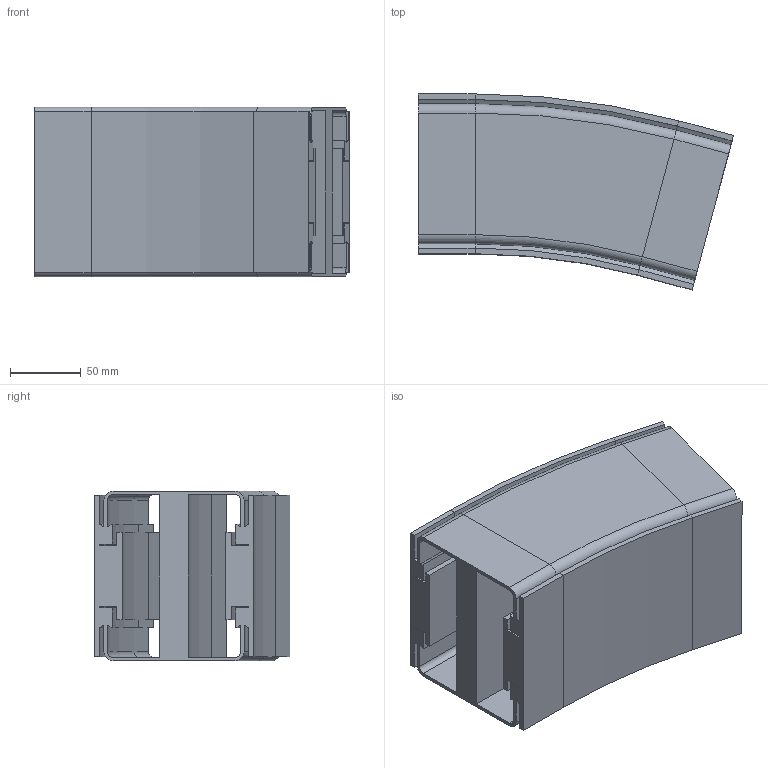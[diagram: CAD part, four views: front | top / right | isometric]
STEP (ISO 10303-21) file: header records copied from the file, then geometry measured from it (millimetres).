
FILE_DESCRIPTION (( 'STEP AP214' ), '1' );
FILE_NAME ('VC.120 Verticale bochtsectie.R500 15.STEP', '2017-02-08T08:10:09', ( '' ), ( '' ), 'SwSTEP 2.0', 'SolidWorks 2016', '' );
FILE_SCHEMA (( 'AUTOMOTIVE_DESIGN' ));
Length unit declared in the file: millimetre
Products named in the file (1): VC.120 Verticale bochtsectie.R500 15
Bounding box: 222.67 x 138.46 x 120 mm (x, y, z)
Volume: 1243492 mm3; surface area: 312473.4 mm2
Topology: 1 solids, 1 shells, 206 faces, 476 edges, 272 vertices
Faces by surface type: plane 144, cylinder 46, cone 8, torus 8
Entity records: 5674 total; most frequent: DIRECTION 990, CARTESIAN_POINT 955, ORIENTED_EDGE 952, EDGE_CURVE 476, VECTOR 376, LINE 376, AXIS2_PLACEMENT_3D 307, VERTEX_POINT 272
